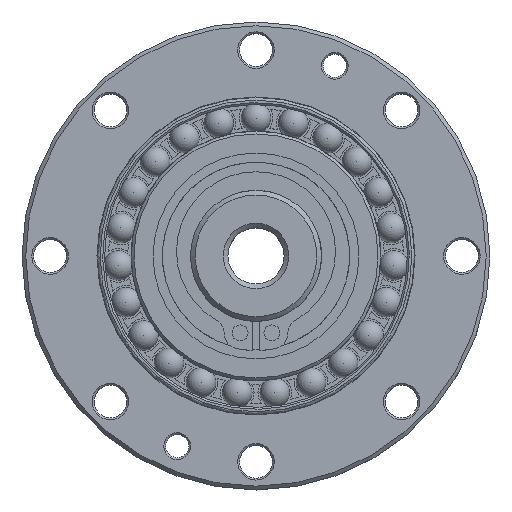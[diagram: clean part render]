
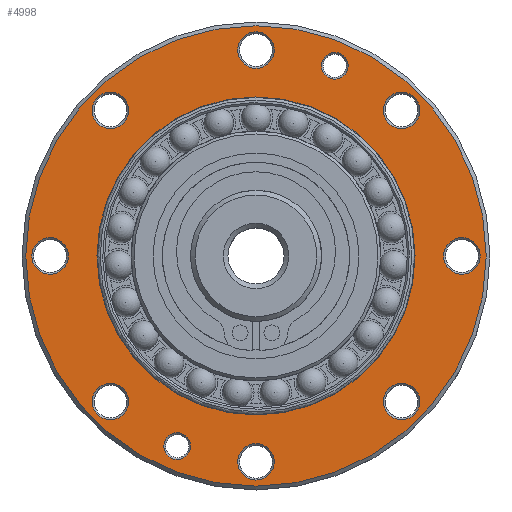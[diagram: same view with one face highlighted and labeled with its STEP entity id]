
A CAD part, top view. The second image highlights one B-rep face of the part: STEP entity #4998.
In plain terms, the highlighted planar face has unit normal (0, 0, 1).
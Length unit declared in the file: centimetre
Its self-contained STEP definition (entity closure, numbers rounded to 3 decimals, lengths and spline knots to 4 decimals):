
#747=PLANE($,#5788);
#887=FACE_BOUND($,#1644,.T.);
#888=FACE_BOUND($,#1645,.T.);
#889=FACE_BOUND($,#1646,.T.);
#890=FACE_BOUND($,#1647,.T.);
#891=FACE_BOUND($,#1648,.T.);
#892=FACE_BOUND($,#1649,.T.);
#893=FACE_BOUND($,#1650,.T.);
#894=FACE_BOUND($,#1651,.T.);
#895=FACE_BOUND($,#1652,.T.);
#896=FACE_BOUND($,#1653,.T.);
#897=FACE_BOUND($,#1654,.T.);
#898=FACE_BOUND($,#1655,.T.);
#1644=EDGE_LOOP($,(#4561));
#1645=EDGE_LOOP($,(#4562));
#1646=EDGE_LOOP($,(#4563));
#1647=EDGE_LOOP($,(#4564));
#1648=EDGE_LOOP($,(#4565));
#1649=EDGE_LOOP($,(#4566));
#1650=EDGE_LOOP($,(#4567));
#1651=EDGE_LOOP($,(#4568));
#1652=EDGE_LOOP($,(#4569));
#1653=EDGE_LOOP($,(#4570));
#1654=EDGE_LOOP($,(#4571));
#1655=EDGE_LOOP($,(#4572));
#2202=CIRCLE($,#5787,1.6992);
#2203=CIRCLE($,#5789,0.195);
#2204=CIRCLE($,#5790,0.195);
#2205=CIRCLE($,#5791,0.195);
#2206=CIRCLE($,#5792,0.195);
#2207=CIRCLE($,#5793,0.195);
#2208=CIRCLE($,#5794,0.195);
#2209=CIRCLE($,#5795,0.195);
#2210=CIRCLE($,#5796,0.195);
#2211=CIRCLE($,#5797,0.143);
#2212=CIRCLE($,#5798,0.143);
#2213=CIRCLE($,#5799,2.46);
#2631=VERTEX_POINT($,#9283);
#2632=VERTEX_POINT($,#9286);
#2633=VERTEX_POINT($,#9288);
#2634=VERTEX_POINT($,#9290);
#2635=VERTEX_POINT($,#9292);
#2636=VERTEX_POINT($,#9294);
#2637=VERTEX_POINT($,#9296);
#2638=VERTEX_POINT($,#9298);
#2639=VERTEX_POINT($,#9300);
#2640=VERTEX_POINT($,#9302);
#2641=VERTEX_POINT($,#9304);
#2642=VERTEX_POINT($,#9306);
#3260=EDGE_CURVE($,#2631,#2631,#2202,.T.);
#3261=EDGE_CURVE($,#2632,#2632,#2203,.T.);
#3262=EDGE_CURVE($,#2633,#2633,#2204,.T.);
#3263=EDGE_CURVE($,#2634,#2634,#2205,.T.);
#3264=EDGE_CURVE($,#2635,#2635,#2206,.T.);
#3265=EDGE_CURVE($,#2636,#2636,#2207,.T.);
#3266=EDGE_CURVE($,#2637,#2637,#2208,.T.);
#3267=EDGE_CURVE($,#2638,#2638,#2209,.T.);
#3268=EDGE_CURVE($,#2639,#2639,#2210,.T.);
#3269=EDGE_CURVE($,#2640,#2640,#2211,.T.);
#3270=EDGE_CURVE($,#2641,#2641,#2212,.T.);
#3271=EDGE_CURVE($,#2642,#2642,#2213,.T.);
#4561=ORIENTED_EDGE($,*,*,#3261,.F.);
#4562=ORIENTED_EDGE($,*,*,#3262,.F.);
#4563=ORIENTED_EDGE($,*,*,#3263,.F.);
#4564=ORIENTED_EDGE($,*,*,#3264,.F.);
#4565=ORIENTED_EDGE($,*,*,#3265,.F.);
#4566=ORIENTED_EDGE($,*,*,#3266,.F.);
#4567=ORIENTED_EDGE($,*,*,#3267,.F.);
#4568=ORIENTED_EDGE($,*,*,#3268,.F.);
#4569=ORIENTED_EDGE($,*,*,#3269,.F.);
#4570=ORIENTED_EDGE($,*,*,#3270,.F.);
#4571=ORIENTED_EDGE($,*,*,#3271,.F.);
#4572=ORIENTED_EDGE($,*,*,#3260,.T.);
#4998=ADVANCED_FACE($,(#887,#888,#889,#890,#891,#892,#893,#894,#895,#896,
#897,#898),#747,.T.);
#5787=AXIS2_PLACEMENT_3D($,#9284,#7485,#7486);
#5788=AXIS2_PLACEMENT_3D($,#9285,#7487,#7488);
#5789=AXIS2_PLACEMENT_3D($,#9287,#7489,#7490);
#5790=AXIS2_PLACEMENT_3D($,#9289,#7491,#7492);
#5791=AXIS2_PLACEMENT_3D($,#9291,#7493,#7494);
#5792=AXIS2_PLACEMENT_3D($,#9293,#7495,#7496);
#5793=AXIS2_PLACEMENT_3D($,#9295,#7497,#7498);
#5794=AXIS2_PLACEMENT_3D($,#9297,#7499,#7500);
#5795=AXIS2_PLACEMENT_3D($,#9299,#7501,#7502);
#5796=AXIS2_PLACEMENT_3D($,#9301,#7503,#7504);
#5797=AXIS2_PLACEMENT_3D($,#9303,#7505,#7506);
#5798=AXIS2_PLACEMENT_3D($,#9305,#7507,#7508);
#5799=AXIS2_PLACEMENT_3D($,#9307,#7509,#7510);
#7485=DIRECTION('center_axis',(0.,0.,-1.));
#7486=DIRECTION('ref_axis',(1.,0.,0.));
#7487=DIRECTION('center_axis',(0.,0.,1.));
#7488=DIRECTION('ref_axis',(1.,0.,0.));
#7489=DIRECTION('center_axis',(0.,0.,1.));
#7490=DIRECTION('ref_axis',(-1.,0.,0.));
#7491=DIRECTION('center_axis',(0.,0.,1.));
#7492=DIRECTION('ref_axis',(-1.,0.,0.));
#7493=DIRECTION('center_axis',(0.,0.,1.));
#7494=DIRECTION('ref_axis',(-1.,0.,0.));
#7495=DIRECTION('center_axis',(0.,0.,1.));
#7496=DIRECTION('ref_axis',(-1.,0.,0.));
#7497=DIRECTION('center_axis',(0.,0.,1.));
#7498=DIRECTION('ref_axis',(-1.,0.,0.));
#7499=DIRECTION('center_axis',(0.,0.,1.));
#7500=DIRECTION('ref_axis',(-1.,0.,0.));
#7501=DIRECTION('center_axis',(0.,0.,1.));
#7502=DIRECTION('ref_axis',(-1.,0.,0.));
#7503=DIRECTION('center_axis',(0.,0.,1.));
#7504=DIRECTION('ref_axis',(-1.,0.,0.));
#7505=DIRECTION('center_axis',(0.,0.,1.));
#7506=DIRECTION('ref_axis',(-1.,0.,0.));
#7507=DIRECTION('center_axis',(0.,0.,1.));
#7508=DIRECTION('ref_axis',(-1.,0.,0.));
#7509=DIRECTION('center_axis',(0.,0.,-1.));
#7510=DIRECTION('ref_axis',(0.,-1.,0.));
#9283=CARTESIAN_POINT('',(0.,-1.6992,0.));
#9284=CARTESIAN_POINT('Origin',(0.,0.,0.));
#9285=CARTESIAN_POINT('Origin',(0.,-1.714,0.));
#9286=CARTESIAN_POINT('',(1.7506,1.5556,0.));
#9287=CARTESIAN_POINT('Origin',(1.5556,1.5556,0.));
#9288=CARTESIAN_POINT('',(0.195,2.2,0.));
#9289=CARTESIAN_POINT('Origin',(0.,2.2,0.));
#9290=CARTESIAN_POINT('',(-1.3606,1.5556,0.));
#9291=CARTESIAN_POINT('Origin',(-1.5556,1.5556,0.));
#9292=CARTESIAN_POINT('',(-2.005,0.,0.));
#9293=CARTESIAN_POINT('Origin',(-2.2,0.,0.));
#9294=CARTESIAN_POINT('',(-1.3606,-1.5556,0.));
#9295=CARTESIAN_POINT('Origin',(-1.5556,-1.5556,0.));
#9296=CARTESIAN_POINT('',(0.195,-2.2,0.));
#9297=CARTESIAN_POINT('Origin',(0.,-2.2,0.));
#9298=CARTESIAN_POINT('',(1.7506,-1.5556,0.));
#9299=CARTESIAN_POINT('Origin',(1.5556,-1.5556,0.));
#9300=CARTESIAN_POINT('',(2.395,0.,0.));
#9301=CARTESIAN_POINT('Origin',(2.2,0.,0.));
#9302=CARTESIAN_POINT('',(0.9849,2.0325,0.));
#9303=CARTESIAN_POINT('Origin',(0.8419,2.0325,0.));
#9304=CARTESIAN_POINT('',(-0.699,-2.0325,0.));
#9305=CARTESIAN_POINT('Origin',(-0.8419,-2.0325,0.));
#9306=CARTESIAN_POINT('',(0.,2.46,0.));
#9307=CARTESIAN_POINT('Origin',(0.,0.,0.));
